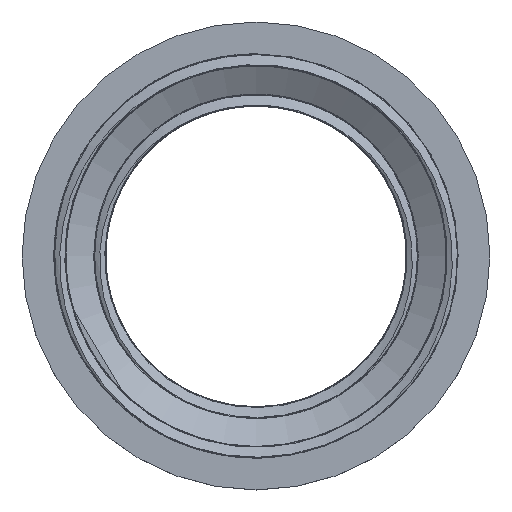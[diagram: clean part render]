
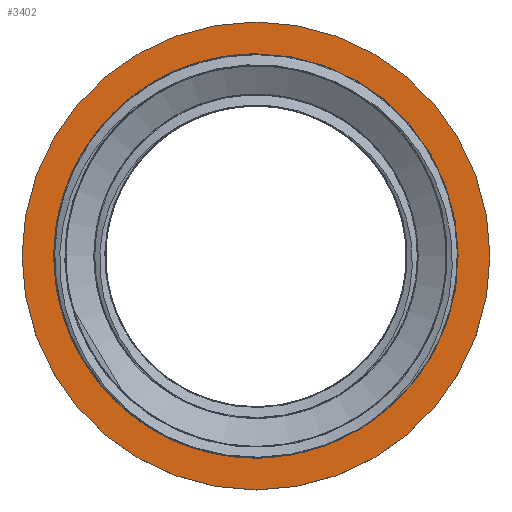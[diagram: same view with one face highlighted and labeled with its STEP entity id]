
A CAD part, top view. The second image highlights one B-rep face of the part: STEP entity #3402.
In plain terms, the highlighted planar face has unit normal (0, 0, 1).
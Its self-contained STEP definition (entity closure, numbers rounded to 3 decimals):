
#35=FACE_BOUND('',#1118,.T.);
#764=PLANE('',#3693);
#913=FACE_OUTER_BOUND('',#1117,.T.);
#1117=EDGE_LOOP('',(#2937,#2938));
#1118=EDGE_LOOP('',(#2939,#2940));
#1287=CIRCLE('',#3691,34.5);
#1288=CIRCLE('',#3692,34.5);
#1289=CIRCLE('',#3694,29.8);
#1290=CIRCLE('',#3695,29.8);
#1572=VERTEX_POINT('',#6977);
#1573=VERTEX_POINT('',#6978);
#1574=VERTEX_POINT('',#6983);
#1575=VERTEX_POINT('',#6984);
#2047=EDGE_CURVE('',#1572,#1573,#1287,.T.);
#2048=EDGE_CURVE('',#1573,#1572,#1288,.T.);
#2050=EDGE_CURVE('',#1574,#1575,#1289,.T.);
#2051=EDGE_CURVE('',#1575,#1574,#1290,.T.);
#2937=ORIENTED_EDGE('',*,*,#2047,.T.);
#2938=ORIENTED_EDGE('',*,*,#2048,.T.);
#2939=ORIENTED_EDGE('',*,*,#2050,.F.);
#2940=ORIENTED_EDGE('',*,*,#2051,.F.);
#3402=ADVANCED_FACE('',(#913,#35),#764,.T.);
#3691=AXIS2_PLACEMENT_3D('',#6979,#4373,#4374);
#3692=AXIS2_PLACEMENT_3D('',#6980,#4375,#4376);
#3693=AXIS2_PLACEMENT_3D('',#6982,#4378,#4379);
#3694=AXIS2_PLACEMENT_3D('',#6985,#4380,#4381);
#3695=AXIS2_PLACEMENT_3D('',#6986,#4382,#4383);
#4373=DIRECTION('center_axis',(0.,0.,1.));
#4374=DIRECTION('ref_axis',(1.,0.,0.));
#4375=DIRECTION('center_axis',(0.,0.,1.));
#4376=DIRECTION('ref_axis',(1.,0.,0.));
#4378=DIRECTION('center_axis',(0.,0.,1.));
#4379=DIRECTION('ref_axis',(1.,0.,0.));
#4380=DIRECTION('center_axis',(0.,0.,1.));
#4381=DIRECTION('ref_axis',(1.,0.,0.));
#4382=DIRECTION('center_axis',(0.,0.,1.));
#4383=DIRECTION('ref_axis',(1.,0.,0.));
#6977=CARTESIAN_POINT('',(0.,-34.5,41.028));
#6978=CARTESIAN_POINT('',(0.,34.5,41.028));
#6979=CARTESIAN_POINT('Origin',(0.,0.,41.028));
#6980=CARTESIAN_POINT('Origin',(0.,0.,41.028));
#6982=CARTESIAN_POINT('Origin',(0.,-29.8,41.028));
#6983=CARTESIAN_POINT('',(0.,-29.8,41.028));
#6984=CARTESIAN_POINT('',(0.,29.8,41.028));
#6985=CARTESIAN_POINT('Origin',(0.,0.,41.028));
#6986=CARTESIAN_POINT('Origin',(0.,0.,41.028));
